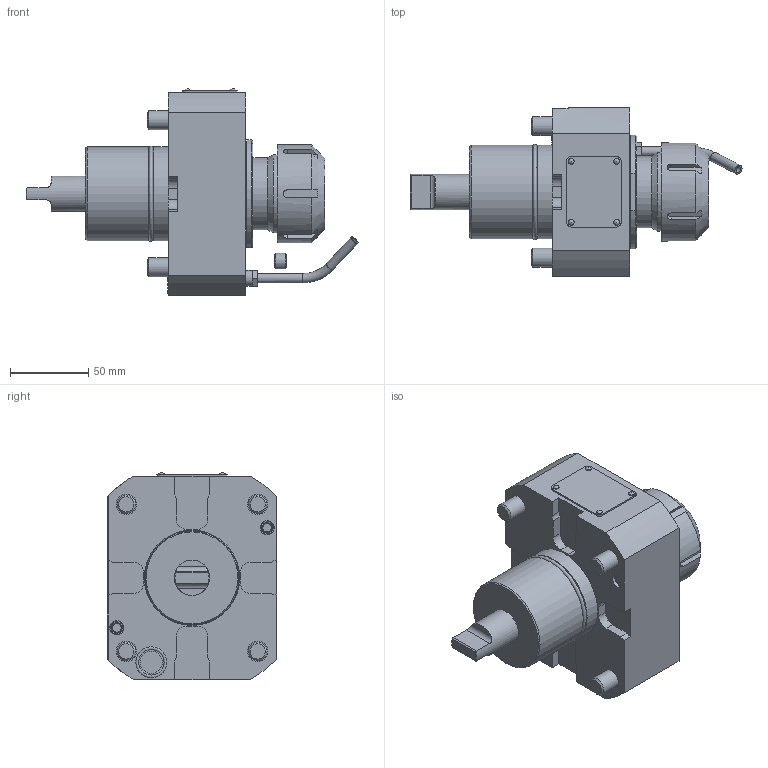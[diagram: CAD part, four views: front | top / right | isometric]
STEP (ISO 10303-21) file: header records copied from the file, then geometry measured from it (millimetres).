
FILE_DESCRIPTION(/* description */ (''),/* implementation_level */ '2;1');
FILE_NAME(/* name */ '188338',/* time_stamp */ '2023-04-21T08:48:48+02:00',/* author */ (''),/* organization */ (''),/* preprocessor_version */ 'ST-DEVELOPER v16.5',/* originating_system */ 'HiCAD 2017 2201.0 Build 268',/* authorisation */ '');
FILE_SCHEMA (('AUTOMOTIVE_DESIGN { 1 0 10303 214 1 1 1 1 }'));
Length unit declared in the file: millimetre
Products named in the file (14): Root; Teil; QRSTUVWXYZ[\]^_`ABCDEFGHIJKLMNOPQRSTUVWXYZ{|}~\X2\20AC0081201A0191
201E20262020202102C62030016020390152008D017D008F009020182019201C201D2022
2013201402DC21220160203A0152009D017D017800A000A100A200A300A400A500A600A7
00A800A900AA00AB00AC00AD00AE00AF00B000B100B200B300B4F5C2FFFD7FFE\X0\; GEWINDE; DIN 76-M8; DIN 13-M8; DIN 76-M4
Assembly tree (13 placements, depth 3):
  Root
    Teil
      QRSTUVWXYZ[\]^_`ABCDEFGHIJKLMNOPQRSTUVWXYZ{|}~\X2\20AC0081201A0191
201E20262020202102C62030016020390152008D017D008F009020182019201C201D2022
2013201402DC21220160203A0152009D017D017800A000A100A200A300A400A500A600A7
00A800A900AA00AB00AC00AD00AE00AF00B000B100B200B300B4F5C2FFFD7FFE\X0\
      GEWINDE
      GEWINDE
      GEWINDE
      GEWINDE
      GEWINDE
      GEWINDE
      GEWINDE
      DIN 76-M8
      DIN 13-M8
      DIN 13-M8
      DIN 76-M4
Bounding box: 212.17 x 108 x 132.3 mm (x, y, z)
Volume: 884576.2 mm3; surface area: 136578.3 mm2
Topology: 17 solids, 22 shells, 386 faces, 869 edges, 554 vertices
Faces by surface type: plane 202, cylinder 118, cone 42, torus 20, sphere 4
Full cylindrical faces by diameter (mm): 2.2 x4, 3.3 x2, 4 x4, 6 x2, 6.466 x4, 6.8 x5, 8 x8, 8.16 x2, 8.773 x2, 9 x4, 9.853 x8, 10 x2, 12 x8, 13 x4, 14.1 x1, 18 x4, 20 x4, 22.5 x1, 30.5 x2, 33.6 x1, 37.1 x1, 46 x1, 50 x2, 51 x1, 55 x1, 55.8 x1, 59.9 x2, 62.7 x1, 67 x1
Entity records: 18717 total; most frequent: CARTESIAN_POINT 2563, DIRECTION 1800, PRESENTATION_STYLE_ASSIGNMENT 1531, OVER_RIDING_STYLED_ITEM 1518, DRAUGHTING_PRE_DEFINED_CURVE_FONT 1378, CURVE_STYLE 1378, ORIENTED_EDGE 1378, COLOUR_RGB 1368
